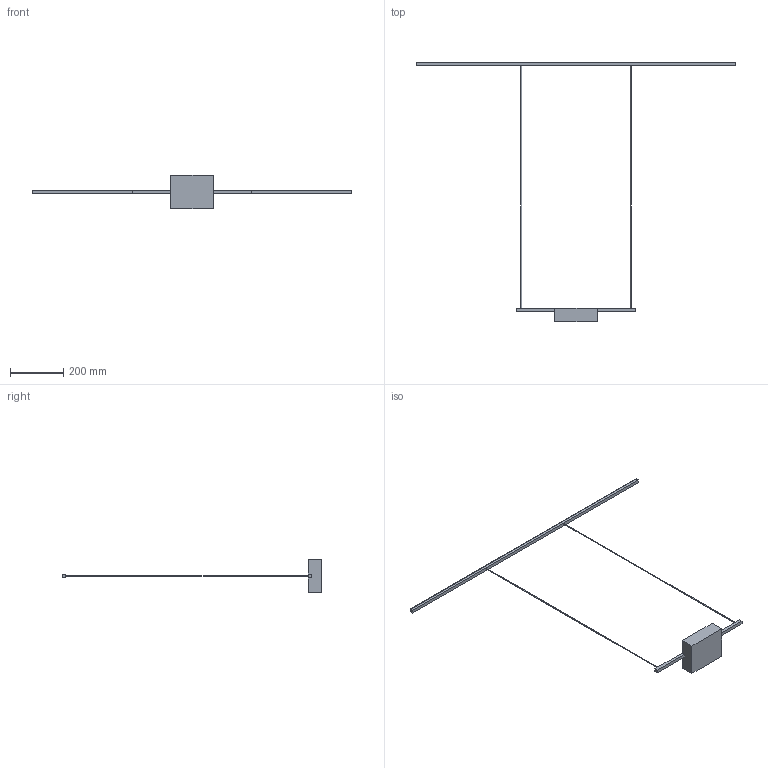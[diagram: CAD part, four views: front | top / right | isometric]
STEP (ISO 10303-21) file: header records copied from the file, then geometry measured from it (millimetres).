
FILE_DESCRIPTION (( 'STEP AP214' ), '1' );
FILE_NAME ('LP18248.STEP', '2020-01-31T19:32:12', ( '' ), ( '' ), 'SwSTEP 2.0', 'SolidWorks 2018', '' );
FILE_SCHEMA (( 'AUTOMOTIVE_DESIGN' ));
Length unit declared in the file: inch
Products named in the file (1): LP18248
Bounding box: 1203.33 x 977.9 x 127 mm (x, y, z)
Volume: 1271867.4 mm3; surface area: 185348.1 mm2
Topology: 1 solids, 1 shells, 46 faces, 116 edges, 76 vertices
Faces by surface type: plane 34, cylinder 12
Entity records: 1416 total; most frequent: CARTESIAN_POINT 239, DIRECTION 234, ORIENTED_EDGE 232, EDGE_CURVE 116, LINE 92, VECTOR 92, VERTEX_POINT 76, AXIS2_PLACEMENT_3D 71
